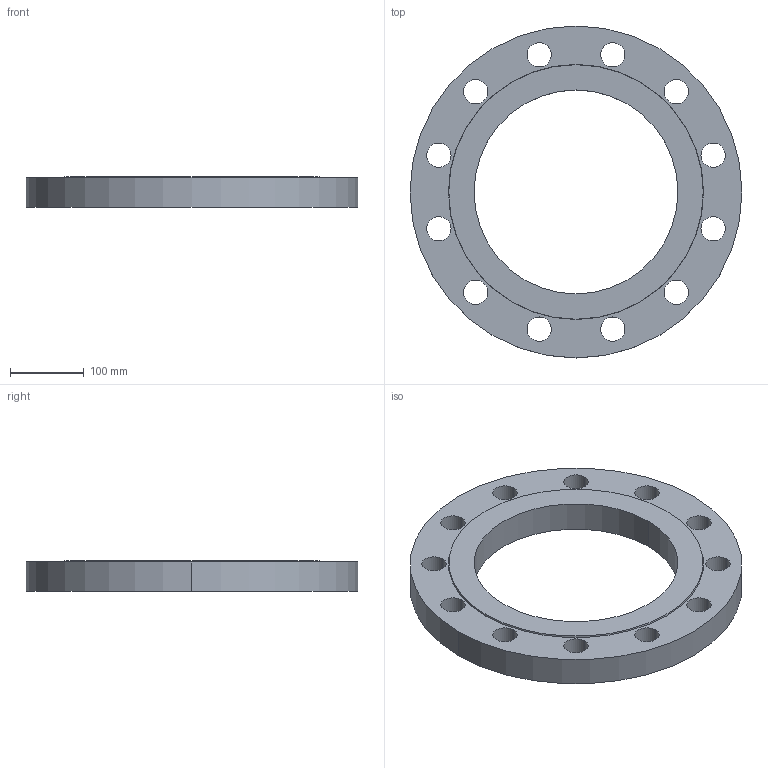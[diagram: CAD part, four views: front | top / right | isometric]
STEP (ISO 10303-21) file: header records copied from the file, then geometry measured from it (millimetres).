
FILE_DESCRIPTION (( 'STEP AP214' ), '1' );
FILE_NAME ('PN40 DN250 Type 01 - Type B Face.STEP', '2019-01-05T16:40:44', ( '' ), ( '' ), 'SwSTEP 2.0', 'SolidWorks 2019', '' );
FILE_SCHEMA (( 'AUTOMOTIVE_DESIGN' ));
Length unit declared in the file: millimetre
Products named in the file (1): PN40 DN250 Type 01 - Type B Face
Bounding box: 450 x 450 x 42 mm (x, y, z)
Volume: 3616619.1 mm3; surface area: 322083.8 mm2
Topology: 1 solids, 1 shells, 33 faces, 90 edges, 60 vertices
Faces by surface type: cylinder 28, plane 3, cone 2
Entity records: 1170 total; most frequent: DIRECTION 218, CARTESIAN_POINT 184, ORIENTED_EDGE 180, AXIS2_PLACEMENT_3D 94, EDGE_CURVE 90, CIRCLE 60, VERTEX_POINT 60, EDGE_LOOP 60
